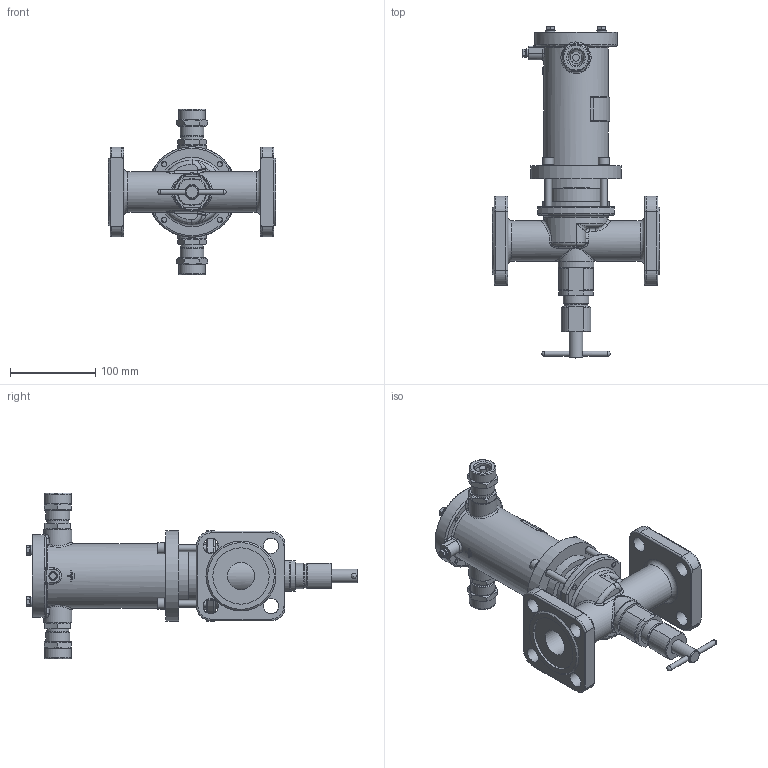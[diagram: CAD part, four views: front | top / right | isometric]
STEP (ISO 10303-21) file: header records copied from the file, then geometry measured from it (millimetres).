
FILE_DESCRIPTION(('STEP AP203'), '1');
FILE_NAME('ÑÅÍÑ-ÏÐ DN32PN25.stp', '2018-10-09T07:55:20', ('Îðëîâ Å.Â.'), ('ÎÎÎ ÍÏÏ Ñåíñîð'), 'ASCON STEP Converter 1.3', 'Kompas 3D', '');
FILE_SCHEMA(('CONFIG_CONTROL_DESIGN','SUPPORT_RESOURCE_SCHEMA'));
Length unit declared in the file: millimetre
Products named in the file (1): 16
Bounding box: 196 x 388.7 x 194 mm (x, y, z)
Volume: 1186284.6 mm3; surface area: 333799.1 mm2
Topology: 3 solids, 19 shells, 1983 faces, 5243 edges, 3398 vertices
Faces by surface type: cylinder 1012, plane 723, cone 128, torus 52, bspline 50, extrusion 16, sphere 2
Full cylindrical faces by diameter (mm): 3.5 x2, 4.134 x1, 4.917 x4, 5 x1, 6 x13, 6.2 x1, 6.3 x4, 6.5 x4, 8 x8, 8.2 x1, 9 x4, 10 x1, 11 x1, 12 x4, 13 x6, 16 x3, 17 x2, 18 x9, 18.632 x2, 19.9 x1, 20 x2, 21 x1, 22 x2, 22.376 x2, 23 x1, 23.5 x2, 24 x2, 24.5 x2, 26 x4, 26.376 x2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
Entity records: 76133 total; most frequent: CARTESIAN_POINT 25994, DIRECTION 10852, ORIENTED_EDGE 10412, EDGE_CURVE 5206, AXIS2_PLACEMENT_3D 4173, VERTEX_POINT 3390, VECTOR 2506, LINE 2490
